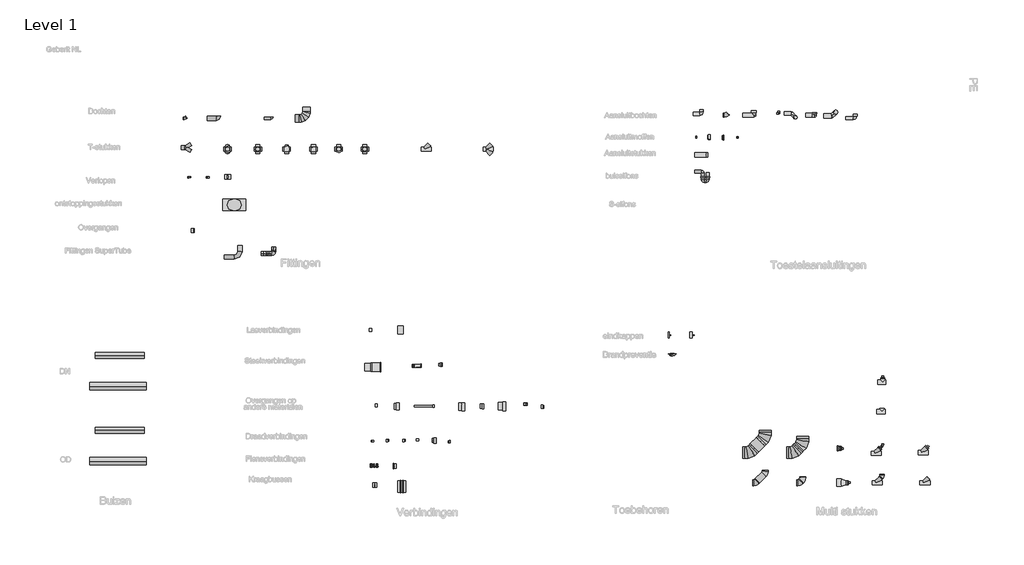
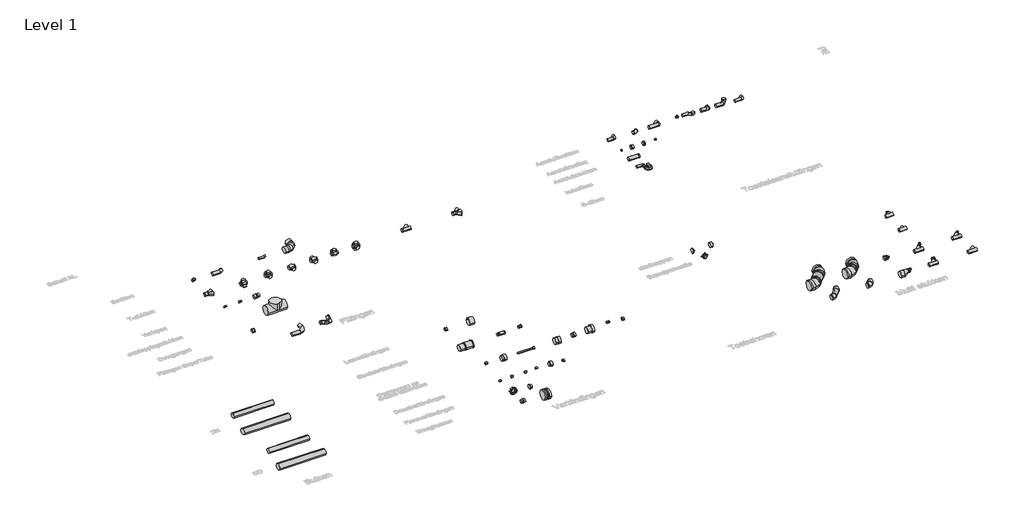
# One storey, part 1 of 9: 88 pipe fittings, 6 pipe segments, 1 covering.
"""IFC4 building model written with IfcOpenShell, lengths in millimetres."""

from ifc_helpers import new_model, si_unit, point, frame, frame_2d, origin, place, context, project, spatial, circle_curve, trimmed, segment, composite_curve, outline, extrude, transform, mapped, element, save
from components import covering_f3e6e1b0, pipe_fitting_01506ed9, pipe_fitting_891d161b, pipe_fitting_aa14bf3e, pipe_fitting_cdec6f6e, pipe_fitting_94343e28, pipe_fitting_200c67d1, pipe_fitting_8937aa88, pipe_fitting_72bd3ef1, pipe_fitting_7474d90c, pipe_fitting_4cfa4c72, pipe_fitting_c2f5c8ad, pipe_fitting_3d7ed814, pipe_fitting_5ecb3781, pipe_fitting_8499a61f, pipe_fitting_ef94fdf8, pipe_fitting_06a9d853, pipe_fitting_5e263041, pipe_fitting_2d73b07b, pipe_fitting_837e9a98, pipe_fitting_a494353a, pipe_fitting_ec2da396, pipe_fitting_92d443f0, pipe_fitting_509cdd89, pipe_fitting_5697ba1b, pipe_fitting_2152e1c3, pipe_fitting_bed2c911, pipe_fitting_a08efd00, pipe_fitting_3a0e395e, pipe_fitting_94b47f5e, pipe_fitting_18a78aad, pipe_fitting_8b9b12c6, pipe_fitting_c1c2389f, pipe_fitting_84bfb5ac, pipe_fitting_539533b1, pipe_fitting_511397ee, pipe_fitting_b586c07b, pipe_fitting_5c974b61, pipe_fitting_3ff8aea3, pipe_fitting_5e71ca5e, pipe_fitting_f7247931, pipe_fitting_40b46b3c, pipe_fitting_e77b350f, pipe_fitting_38d1e98c, pipe_fitting_d28d0940, pipe_fitting_21b6d9ae, pipe_fitting_029c0207, pipe_fitting_4753cb8a, pipe_fitting_93f2e5c1, pipe_fitting_f7c1df82, pipe_fitting_514cde16, pipe_fitting_fa588625, pipe_fitting_bb3acb3a, pipe_fitting_9f7682d1, pipe_fitting_7b2d2720, pipe_fitting_122abe25, pipe_fitting_f3f9f784, pipe_fitting_35322ad2, pipe_fitting_e7b06fe6, pipe_fitting_a508771a, pipe_fitting_67a79f44, pipe_fitting_d58c71f0, nested_2992b03f, nested_21fb20ed, nested_cf578549, nested_1662fd97, nested_d7a01211, nested_2d8ea072, nested_098f2a58, nested_b8c35c44, nested_941dfa96, nested_ecac7f44, nested_0e2d0414, nested_0cd4240f, nested_5c74db91, nested_bcde11aa, nested_b3afe5c9, nested_135c0b6a

model = new_model("IFC4")

# Units and contexts
model_context = context("Model", 3, world=origin())
ifc_project = project(units=[si_unit("LENGTHUNIT", "METRE", prefix="MILLI")], contexts=[model_context])

# Site, building, storey
site = spatial("IfcSite", under=ifc_project)
building = spatial("IfcBuilding", under=site)
storey = spatial("IfcBuildingStorey", under=building, Name="Level 1", Elevation=0.0)

# Covering
placement = place(None, origin())
covering_shape = covering_f3e6e1b0(model_context)
element("IfcCovering", 1, ObjectType="NLRS_52_SE_WPB_brandmanchet RS90 Plus EN_PRO_101862_geb : DN40-200 / d40-200 - OD", at=placement, inside=storey, context=model_context, shape_type="MappedRepresentation", body=[
    mapped(covering_shape, transform((13033.1934417, 15218.9413767, 99.896756), x_axis=(0.0, 0.03482583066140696, -0.9993933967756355), y_axis=(1.0, 0.0, 0.0), z_axis=(0.0, -0.9993933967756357, -0.034825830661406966))),
])

# Pipe fittings
pipe_fitting_shape = pipe_fitting_01506ed9(model_context)
element("IfcPipeFitting", 2, ObjectType="NLRS_52_PIF_UN_PE BackFlip bocht_geb : DN100 / ø110", at=placement, inside=storey, context=model_context, shape_type="MappedRepresentation", body=[
    mapped(pipe_fitting_shape, transform((2411.3752995, 17895.2036212, 0.0), x_axis=(1.0, 0.0, 0.0), y_axis=(0.0, 1.0, 0.0), z_axis=(0.0, 0.0, 1.0))),
])
pipe_fitting_2_shape = pipe_fitting_891d161b(model_context)
element("IfcPipeFitting", 3, ObjectType="NLRS_52_PIF_UN_PE bocht 90° met lang been en kleine radius_geb : DN90-100 / ø90-110", at=placement, inside=storey, context=model_context, shape_type="MappedRepresentation", body=[
    mapped(pipe_fitting_2_shape, transform((942.3752995, 21495.5424865, 0.0), x_axis=(1.0, 0.0, 0.0), y_axis=(0.0, 1.0, 0.0), z_axis=(0.0, 0.0, 1.0))),
])
pipe_fitting_3_shape = pipe_fitting_aa14bf3e(model_context)
element("IfcPipeFitting", 4, ObjectType="NLRS_52_PIF_UN_PE BottomTurn bocht_geb : DN100 / ø110", at=placement, inside=storey, context=model_context, shape_type="MappedRepresentation", body=[
    mapped(pipe_fitting_3_shape, transform((1511.3752995, 17795.2036212, 0.0), x_axis=(1.0, 0.0, 0.0), y_axis=(0.0, 1.0, 0.0), z_axis=(0.0, 0.0, 1.0))),
])
pipe_fitting_4_shape = pipe_fitting_cdec6f6e(model_context)
element("IfcPipeFitting", 5, ObjectType="NLRS_52_PIF_UN_PE broek T-stuk 2 x 30°_geb : DN40-100 Ø40-110", at=placement, inside=storey, context=model_context, shape_type="MappedRepresentation", body=[
    mapped(pipe_fitting_4_shape, transform((42.047866, 20720.9447432, 0.0), x_axis=(1.0, 0.0, 0.0), y_axis=(0.0, 1.0, 0.0), z_axis=(0.0, 0.0, 1.0))),
])
pipe_fitting_5_shape = pipe_fitting_94343e28(model_context)
element("IfcPipeFitting", 6, ObjectType="NLRS_52_PIF_UN_PE kogel T-stuk 88,5° drievoudig, aansluitingen 135° sprong_geb : DN60-125 / ø63-125", at=placement, inside=storey, context=model_context, shape_type="MappedRepresentation", body=[
    mapped(pipe_fitting_5_shape, transform((1179.5557018, 20673.2055651, 0.0), x_axis=(1.0, 0.0, 0.0), y_axis=(0.0, 1.0, 0.0), z_axis=(0.0, 0.0, 1.0))),
])
pipe_fitting_6_shape = pipe_fitting_200c67d1(model_context)
element("IfcPipeFitting", 7, ObjectType="NLRS_52_PIF_UN_PE kogel T-stuk 88,5° drievoudig, aansluitingen 90° sprong_geb : DN60-150 / ø63-160", at=placement, inside=storey, context=model_context, shape_type="MappedRepresentation", body=[
    mapped(pipe_fitting_6_shape, transform((1989.8352561, 20673.2055651, 0.0), x_axis=(1.0, 0.0, 0.0), y_axis=(0.0, 1.0, 0.0), z_axis=(0.0, 0.0, 1.0))),
])
pipe_fitting_7_shape = pipe_fitting_8937aa88(model_context)
element("IfcPipeFitting", 8, ObjectType="NLRS_52_PIF_UN_PE kogel T-stuk 88,5° dubbel, aansluitingen 135° sprong_geb : DN60-150 / ø63-160", at=placement, inside=storey, context=model_context, shape_type="MappedRepresentation", body=[
    mapped(pipe_fitting_7_shape, transform((2753.3679131, 20673.2055651, 0.0), x_axis=(1.0, 0.0, 0.0), y_axis=(0.0, 1.0, 0.0), z_axis=(0.0, 0.0, 1.0))),
])
pipe_fitting_8_shape = pipe_fitting_72bd3ef1(model_context)
element("IfcPipeFitting", 9, ObjectType="NLRS_52_PIF_UN_PE kogel T-stuk 88,5° dubbel, aansluitingen 180° sprong_geb : DN60-150 / ø63-160", at=placement, inside=storey, context=model_context, shape_type="MappedRepresentation", body=[
    mapped(pipe_fitting_8_shape, transform((3470.1536726, 20673.2055651, 0.0), x_axis=(1.0, 0.0, 0.0), y_axis=(0.0, 1.0, 0.0), z_axis=(0.0, 0.0, 1.0))),
])
pipe_fitting_9_shape = pipe_fitting_7474d90c(model_context)
element("IfcPipeFitting", 10, ObjectType="NLRS_52_PIF_UN_PE kogel T-stuk 88,5° dubbel, aansluitingen 90° sprong_geb : DN60-150 / ø63-160", at=placement, inside=storey, context=model_context, shape_type="MappedRepresentation", body=[
    mapped(pipe_fitting_9_shape, transform((4140.1925348, 20673.2055651, 0.0), x_axis=(1.0, 0.0, 0.0), y_axis=(0.0, 1.0, 0.0), z_axis=(0.0, 0.0, 1.0))),
])
pipe_fitting_10_shape = pipe_fitting_4cfa4c72(model_context)
element("IfcPipeFitting", 11, ObjectType="NLRS_52_PIF_UN_PE kogel T-stuk 88,5° viervoudig, aansluitingen 90° sprong_geb : DN60-150 / ø63-160", at=placement, inside=storey, context=model_context, shape_type="MappedRepresentation", body=[
    mapped(pipe_fitting_10_shape, transform((4841.3959953, 20673.2055651, 0.0), x_axis=(1.0, 0.0, 0.0), y_axis=(0.0, 1.0, 0.0), z_axis=(0.0, 0.0, 1.0))),
])
pipe_fitting_11_shape = pipe_fitting_c2f5c8ad(model_context)
element("IfcPipeFitting", 12, ObjectType="NLRS_52_PIF_UN_PE tweevoudig T-stuk 45°_geb : DN40-100 / ø40-110", at=placement, inside=storey, context=model_context, shape_type="MappedRepresentation", body=[
    mapped(pipe_fitting_11_shape, transform((8082.5142125, 20673.2055651, 0.0), x_axis=(1.0, 0.0, 0.0), y_axis=(0.0, 1.0, 0.0), z_axis=(0.0, 0.0, 1.0))),
])
pipe_fitting_12_shape = pipe_fitting_3d7ed814(model_context)
element("IfcPipeFitting", 13, ObjectType="NLRS_52_PIF_UN_PE ontstoppingsstuk 90° met ovale service-opening_geb : DN100-300 / ø110-315", at=placement, inside=storey, context=model_context, shape_type="MappedRepresentation", body=[
    mapped(pipe_fitting_12_shape, transform((1359.7334912, 19189.3791747, 0.0), x_axis=(1.0, 0.0, 0.0), y_axis=(0.0, 1.0, 0.0), z_axis=(0.0, 0.0, 1.0))),
])
pipe_fitting_13_shape = pipe_fitting_5ecb3781(model_context)
element("IfcPipeFitting", 14, ObjectType="NLRS_52_PIF_UN_PE overgangsmof_geb : DN90-100 / ø90-110", at=placement, inside=storey, context=model_context, shape_type="MappedRepresentation", body=[
    mapped(pipe_fitting_13_shape, transform((248.7155638, 18508.4327031, 0.0), x_axis=(1.0, 0.0, 0.0), y_axis=(0.0, 1.0, 0.0), z_axis=(0.0, 0.0, 1.0))),
])
pipe_fitting_14_shape = pipe_fitting_8499a61f(model_context)
element("IfcPipeFitting", 15, ObjectType="NLRS_52_PIF_UN_PE elektrolasmof_geb : DN40-150 / ø40-160", at=placement, inside=storey, context=model_context, shape_type="MappedRepresentation", body=[
    mapped(pipe_fitting_14_shape, transform((4990.9103576, 15854.1209089, 0.0), x_axis=(1.0, 0.0, 0.0), y_axis=(0.0, 1.0, 0.0), z_axis=(0.0, 0.0, 1.0))),
])
pipe_fitting_15_shape = pipe_fitting_ef94fdf8(model_context)
element("IfcPipeFitting", 16, ObjectType="NLRS_52_PIF_UN_PE thermomof_geb : DN200-300 / ø200-315", at=placement, inside=storey, context=model_context, shape_type="MappedRepresentation", body=[
    mapped(pipe_fitting_15_shape, transform((5785.6076128, 15854.1209089, 0.0), x_axis=(1.0, 0.0, 0.0), y_axis=(0.0, 1.0, 0.0), z_axis=(0.0, 0.0, 1.0))),
])
pipe_fitting_16_shape = pipe_fitting_06a9d853(model_context)
element("IfcPipeFitting", 17, ObjectType="NLRS_52_PIF_UN_PE steekmof met lippendichting_geb : DN40-150 / ø40-160", at=placement, inside=storey, context=model_context, shape_type="MappedRepresentation", body=[
    mapped(pipe_fitting_16_shape, transform((6856.0340088, 14927.5005981, 0.0), x_axis=(1.0, 0.0, 0.0), y_axis=(0.0, 1.0, 0.0), z_axis=(0.0, 0.0, 1.0))),
])
pipe_fitting_17_shape = pipe_fitting_5e263041(model_context)
element("IfcPipeFitting", 18, ObjectType="NLRS_52_PIF_UN_PE overgang_geb : DN100-150-148 / ø110-160-148", at=placement, inside=storey, context=model_context, shape_type="MappedRepresentation", body=[
    mapped(pipe_fitting_17_shape, transform((5669.5609406, 13820.1875572, 0.0), x_axis=(1.0, 0.0, 0.0), y_axis=(0.0, 1.0, 0.0), z_axis=(0.0, 0.0, 1.0))),
])
pipe_fitting_18_shape = pipe_fitting_2d73b07b(model_context)
element("IfcPipeFitting", 19, ObjectType="NLRS_52_PIF_UN_PE overgang met krimpmof_geb : DN48-300 / ø48-315", at=placement, inside=storey, context=model_context, shape_type="MappedRepresentation", body=[
    mapped(pipe_fitting_18_shape, transform((6422.1859881, 13820.1875572, 0.0), x_axis=(1.0, 0.0, 0.0), y_axis=(0.0, 1.0, 0.0), z_axis=(0.0, 0.0, 1.0))),
])
pipe_fitting_19_shape = pipe_fitting_837e9a98(model_context)
element("IfcPipeFitting", 20, ObjectType="NLRS_52_PIF_UN_PE overgang op gietijzer_geb : DN200-300-326 / ø200-315-326", at=placement, inside=storey, context=model_context, shape_type="MappedRepresentation", body=[
    mapped(pipe_fitting_19_shape, transform((7425.6860515, 13802.2679132, 0.0), x_axis=(1.0, 0.0, 0.0), y_axis=(0.0, 1.0, 0.0), z_axis=(0.0, 0.0, 1.0))),
])
pipe_fitting_20_shape = pipe_fitting_a494353a(model_context)
element("IfcPipeFitting", 21, ObjectType="NLRS_52_PIF_UN_PE overgang op gietijzer, met steunring_geb : DN125-135 / ø125-135", at=placement, inside=storey, context=model_context, shape_type="MappedRepresentation", body=[
    mapped(pipe_fitting_20_shape, transform((7963.2753712, 13820.1875572, 0.0), x_axis=(1.0, 0.0, 0.0), y_axis=(0.0, 1.0, 0.0), z_axis=(0.0, 0.0, 1.0))),
])
pipe_fitting_21_shape = pipe_fitting_ec2da396(model_context)
element("IfcPipeFitting", 22, ObjectType="NLRS_52_PIF_UN_PE overgang op lood_geb : DN50-54 / ø50-54", at=placement, inside=storey, context=model_context, shape_type="MappedRepresentation", body=[
    mapped(pipe_fitting_21_shape, transform((9128.0522305, 13873.9464891, 0.0), x_axis=(1.0, 0.0, 0.0), y_axis=(0.0, 1.0, 0.0), z_axis=(0.0, 0.0, 1.0))),
])
pipe_fitting_22_shape = pipe_fitting_92d443f0(model_context)
element("IfcPipeFitting", 23, ObjectType="NLRS_52_PIF_UN_PE overgangsmanchet op gietijzer, met steunring_geb : DN50-125 / ø50-125", at=placement, inside=storey, context=model_context, shape_type="MappedRepresentation", body=[
    mapped(pipe_fitting_22_shape, transform((9558.1236862, 13802.2679132, 0.0), x_axis=(1.0, 0.0, 0.0), y_axis=(0.0, 1.0, 0.0), z_axis=(0.0, 0.0, 1.0))),
])
pipe_fitting_23_shape = pipe_fitting_509cdd89(model_context)
element("IfcPipeFitting", 24, ObjectType="NLRS_52_PIF_UN_PE overgang met binnendraad_geb : DN40-70-Rp2½\" / ø40-75-Rp2½\"", at=placement, inside=storey, context=model_context, shape_type="MappedRepresentation", body=[
    mapped(pipe_fitting_23_shape, transform((5042.3734009, 12888.3660697, 0.0), x_axis=(1.0, 0.0, 0.0), y_axis=(0.0, 1.0, 0.0), z_axis=(0.0, 0.0, 1.0))),
])
pipe_fitting_24_shape = pipe_fitting_5697ba1b(model_context)
element("IfcPipeFitting", 25, ObjectType="NLRS_52_PIF_UN_PE overgang met binnendraad en klemkoppeling_geb : DN56-Rp2\" / ø56-Rp2\"", at=placement, inside=storey, context=model_context, shape_type="MappedRepresentation", body=[
    mapped(pipe_fitting_24_shape, transform((5454.5252127, 12906.2857137, 0.0), x_axis=(1.0, 0.0, 0.0), y_axis=(0.0, 1.0, 0.0), z_axis=(0.0, 0.0, 1.0))),
])
pipe_fitting_25_shape = pipe_fitting_2152e1c3(model_context)
element("IfcPipeFitting", 26, ObjectType="NLRS_52_PIF_UN_PE overgang met buitendraad en klemkoppeling_geb : DN50-56-R2\" / ø50-56-R2\"", at=placement, inside=storey, context=model_context, shape_type="MappedRepresentation", body=[
    mapped(pipe_fitting_25_shape, transform((5884.5966684, 12906.2857137, 0.0), x_axis=(1.0, 0.0, 0.0), y_axis=(0.0, 1.0, 0.0), z_axis=(0.0, 0.0, 1.0))),
])
pipe_fitting_26_shape = pipe_fitting_bed2c911(model_context)
element("IfcPipeFitting", 27, ObjectType="NLRS_52_PIF_UN_PE overgangsstuk met buitendraad_geb : DN50-70-R2½\" / ø50-75-R2½\"", at=placement, inside=storey, context=model_context, shape_type="MappedRepresentation", body=[
    mapped(pipe_fitting_26_shape, transform((6242.9895482, 12924.2053577, 0.0), x_axis=(1.0, 0.0, 0.0), y_axis=(0.0, 1.0, 0.0), z_axis=(0.0, 0.0, 1.0))),
])
pipe_fitting_27_shape = pipe_fitting_a08efd00(model_context)
element("IfcPipeFitting", 28, ObjectType="NLRS_52_PIF_UN_PE schroefdraadstuk met afsluitkap_geb : DN30-100 / ø32-110", at=placement, inside=storey, context=model_context, shape_type="MappedRepresentation", body=[
    mapped(pipe_fitting_27_shape, transform((6673.0610039, 12906.2857137, 0.0), x_axis=(1.0, 0.0, 0.0), y_axis=(0.0, 1.0, 0.0), z_axis=(0.0, 0.0, 1.0))),
])
pipe_fitting_28_shape = pipe_fitting_3a0e395e(model_context)
element("IfcPipeFitting", 29, ObjectType="NLRS_52_PIF_UN_PE schroefdraadstuk met klemkoppeling_geb : DN30-100 / ø32-110", at=placement, inside=storey, context=model_context, shape_type="MappedRepresentation", body=[
    mapped(pipe_fitting_28_shape, transform((7085.2128157, 12870.4464257, 0.0), x_axis=(1.0, 0.0, 0.0), y_axis=(0.0, 1.0, 0.0), z_axis=(0.0, 0.0, 1.0))),
])
pipe_fitting_29_shape = pipe_fitting_94b47f5e(model_context)
element("IfcPipeFitting", 30, ObjectType="NLRS_52_PIF_UN_PE set flens_geb : DN50-300 / ø50-315", at=placement, inside=storey, context=model_context, shape_type="MappedRepresentation", body=[
    mapped(pipe_fitting_29_shape, transform((5087.1917562, 12218.7765585, 40.5704963), x_axis=(1.0, 0.0, 0.0), y_axis=(0.0, 0.058908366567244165, 0.9982633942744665), z_axis=(0.0, -0.9982633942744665, 0.058908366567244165))),
])
pipe_fitting_30_shape = pipe_fitting_18a78aad(model_context)
element("IfcPipeFitting", 31, ObjectType="NLRS_52_PIF_UN_PE voorlaskraag_geb : DN50-300 / ø50-315", at=placement, inside=storey, context=model_context, shape_type="MappedRepresentation", body=[
    mapped(pipe_fitting_30_shape, transform((5601.0538751, 12222.5407082, 0.0), x_axis=(1.0, 0.0, 0.0), y_axis=(0.0, 1.0, 0.0), z_axis=(0.0, 0.0, 1.0))),
])
pipe_fitting_31_shape = pipe_fitting_8b9b12c6(model_context)
element("IfcPipeFitting", 32, ObjectType="NLRS_52_PIF_UN_PE kraagbus_geb : DN30-100 / ø32-110", at=placement, inside=storey, context=model_context, shape_type="MappedRepresentation", body=[
    mapped(pipe_fitting_31_shape, transform((5102.1369897, 11714.7145927, 0.0), x_axis=(1.0, 0.0, 0.0), y_axis=(0.0, 1.0, 0.0), z_axis=(0.0, 0.0, 1.0))),
])
pipe_fitting_32_shape = pipe_fitting_c1c2389f(model_context)
element("IfcPipeFitting", 33, ObjectType="NLRS_52_PIF_UN_aansluitbocht 90° voor wand-wc_geb : DN90-100 / ø90-110", at=placement, inside=storey, context=model_context, shape_type="MappedRepresentation", body=[
    mapped(pipe_fitting_32_shape, transform((13813.4360401, 21615.4855156, 0.0), x_axis=(1.0, 0.0, 0.0), y_axis=(0.0, 1.0, 0.0), z_axis=(0.0, 0.0, 1.0))),
])
pipe_fitting_33_shape = pipe_fitting_84bfb5ac(model_context)
element("IfcPipeFitting", 34, ObjectType="NLRS_52_PIF_UN_PE aansluitbocht 45° met aansluitsteekmof, voor wand-wc_geb : DN90-100 / ø90-110", at=placement, inside=storey, context=model_context, shape_type="MappedRepresentation", body=[
    mapped(pipe_fitting_33_shape, transform((14471.6089961, 21586.2232082, 0.0), x_axis=(1.0, 0.0, 0.0), y_axis=(0.0, 1.0, 0.0), z_axis=(0.0, 0.0, 1.0))),
])
pipe_fitting_34_shape = pipe_fitting_539533b1(model_context)
element("IfcPipeFitting", 35, ObjectType="NLRS_52_PIF_UN_PE aansluitbocht 88,5° voor staande wc_geb : DN90-100 / ø90-110", at=placement, inside=storey, context=model_context, shape_type="MappedRepresentation", body=[
    mapped(pipe_fitting_34_shape, transform((15206.2696006, 21586.2232082, 0.0), x_axis=(1.0, 0.0, 0.0), y_axis=(0.0, 1.0, 0.0), z_axis=(0.0, 0.0, 1.0))),
])
pipe_fitting_35_shape = pipe_fitting_511397ee(model_context)
element("IfcPipeFitting", 36, ObjectType="NLRS_52_PIF_UN_PE aansluitbocht 90° voor manchet_geb : DN40-56-58 / ø40-56-58", at=placement, inside=storey, context=model_context, shape_type="MappedRepresentation", body=[
    mapped(pipe_fitting_35_shape, transform((15869.8340175, 21633.6206665, 0.0), x_axis=(1.0, 0.0, 0.0), y_axis=(0.0, 1.0, 0.0), z_axis=(0.0, 0.0, 1.0))),
])
pipe_fitting_36_shape = pipe_fitting_b586c07b(model_context)
element("IfcPipeFitting", 37, ObjectType="NLRS_52_PIF_UN_PE aansluitbocht 90° voor wand-wc, links gebogen, met korte voorsprong_geb : DN90-100 / ø90-110", at=placement, inside=storey, context=model_context, shape_type="MappedRepresentation", body=[
    mapped(pipe_fitting_36_shape, transform((16308.1457556, 21624.9530386, 0.0), x_axis=(1.0, 0.0, 0.0), y_axis=(0.0, 1.0, 0.0), z_axis=(0.0, 0.0, 1.0))),
])
pipe_fitting_37_shape = pipe_fitting_5c974b61(model_context)
element("IfcPipeFitting", 38, ObjectType="NLRS_52_PIF_UN_PE aansluitbocht 90° voor wand-wc, met korte voorsprong_geb : DN90-100 / ø90-110", at=placement, inside=storey, context=model_context, shape_type="MappedRepresentation", body=[
    mapped(pipe_fitting_37_shape, transform((16819.4580916, 21578.470099, 0.0), x_axis=(1.0, 0.0, 0.0), y_axis=(0.0, 1.0, 0.0), z_axis=(0.0, 0.0, 1.0))),
])
pipe_fitting_38_shape = pipe_fitting_3ff8aea3(model_context)
element("IfcPipeFitting", 39, ObjectType="NLRS_52_PIF_UN_PE aansluitbocht 90° voor wand-wc, rechts gebogen, met korte voorsprong_geb : DN90-100 / ø90-110", at=placement, inside=storey, context=model_context, shape_type="MappedRepresentation", body=[
    mapped(pipe_fitting_38_shape, transform((17385.0005238, 21562.9757857, 0.0), x_axis=(1.0, 0.0, 0.0), y_axis=(0.0, 1.0, 0.0), z_axis=(0.0, 0.0, 1.0))),
])
pipe_fitting_39_shape = pipe_fitting_5e71ca5e(model_context)
element("IfcPipeFitting", 40, ObjectType="NLRS_52_PIF_UN_PE aansluitmof_geb : DN40-60 / ø40-63", at=placement, inside=storey, context=model_context, shape_type="MappedRepresentation", body=[
    mapped(pipe_fitting_39_shape, transform((13663.333794, 20996.1648535, 0.0), x_axis=(1.0, 0.0, 0.0), y_axis=(0.0, 1.0, 0.0), z_axis=(0.0, 0.0, 1.0))),
])
pipe_fitting_40_shape = pipe_fitting_f7247931(model_context)
element("IfcPipeFitting", 41, ObjectType="NLRS_52_PIF_UN_PE aansluitmof voor staande wc_geb : DN90-100 / ø90-110", at=placement, inside=storey, context=model_context, shape_type="MappedRepresentation", body=[
    mapped(pipe_fitting_40_shape, transform((13992.4523745, 20995.0398316, 0.0), x_axis=(1.0, 0.0, 0.0), y_axis=(0.0, 1.0, 0.0), z_axis=(0.0, 0.0, 1.0))),
])
pipe_fitting_41_shape = pipe_fitting_40b46b3c(model_context)
element("IfcPipeFitting", 42, ObjectType="NLRS_52_PIF_UN_PE aansluitsteekmof met lipafdichting, voor wand-wc_geb : DN90-100 / ø90-110", at=placement, inside=storey, context=model_context, shape_type="MappedRepresentation", body=[
    mapped(pipe_fitting_41_shape, transform((14362.9685599, 20981.5665158, 0.0), x_axis=(1.0, 0.0, 0.0), y_axis=(0.0, 1.0, 0.0), z_axis=(0.0, 0.0, 1.0))),
])
pipe_fitting_42_shape = pipe_fitting_e77b350f(model_context)
element("IfcPipeFitting", 43, ObjectType="NLRS_52_PIF_UN_PE aansluitsteekmof met lippendichting_geb : DN30-32 / ø32-32", at=placement, inside=storey, context=model_context, shape_type="MappedRepresentation", body=[
    mapped(pipe_fitting_42_shape, transform((14753.6947192, 20988.3031737, 0.0), x_axis=(1.0, 0.0, 0.0), y_axis=(0.0, 1.0, 0.0), z_axis=(0.0, 0.0, 1.0))),
])
pipe_fitting_43_shape = pipe_fitting_38d1e98c(model_context)
element("IfcPipeFitting", 44, ObjectType="NLRS_52_PIF_UN_PE aansluitstuk met steekmof, voor wand-wc_geb : DN90-100 / ø90-110", at=placement, inside=storey, context=model_context, shape_type="MappedRepresentation", body=[
    mapped(pipe_fitting_43_shape, transform((13783.615979, 20523.4737774, 0.0), x_axis=(1.0, 0.0, 0.0), y_axis=(0.0, 1.0, 0.0), z_axis=(0.0, 0.0, 1.0))),
])
pipe_fitting_44_shape = pipe_fitting_d28d0940(model_context)
element("IfcPipeFitting", 45, ObjectType="NLRS_52_PIF_UN_PE buissifon_geb : DN60-100 / ø63-110", at=placement, inside=storey, context=model_context, shape_type="MappedRepresentation", body=[
    mapped(pipe_fitting_44_shape, transform((13978.9790586, 20078.8543548, 0.0), x_axis=(1.0, 0.0, 0.0), y_axis=(0.0, 1.0, 0.0), z_axis=(0.0, 0.0, 1.0))),
])
pipe_fitting_45_shape = pipe_fitting_21b6d9ae(model_context)
element("IfcPipeFitting", 46, ObjectType="NLRS_52_PIF_UN_PE dubbele kraagbus_geb : DN200-300 / ø200-315", at=placement, inside=storey, context=model_context, shape_type="MappedRepresentation", body=[
    mapped(pipe_fitting_45_shape, transform((5822.6491079, 11674.8918857, 0.0), x_axis=(1.0, 0.0, 0.0), y_axis=(0.0, 1.0, 0.0), z_axis=(0.0, 0.0, 1.0))),
])
pipe_fitting_46_shape = pipe_fitting_029c0207(model_context)
element("IfcPipeFitting", 47, ObjectType="NLRS_52_PIF_UN_PE eindkap_geb : DN30-200 / ø32-200", at=placement, inside=storey, context=model_context, shape_type="MappedRepresentation", body=[
    mapped(pipe_fitting_46_shape, transform((12928.0639185, 15715.1571669, 0.0), x_axis=(1.0, 0.0, 0.0), y_axis=(0.0, 1.0, 0.0), z_axis=(0.0, 0.0, 1.0))),
])
pipe_fitting_47_shape = pipe_fitting_4753cb8a(model_context)
element("IfcPipeFitting", 48, ObjectType="NLRS_52_PIF_UN_PE eindkap verlengd_geb : DN50-150 / ø50-160", at=placement, inside=storey, context=model_context, shape_type="MappedRepresentation", body=[
    mapped(pipe_fitting_47_shape, transform((13505.0764549, 15715.1571669, 0.0), x_axis=(1.0, 0.0, 0.0), y_axis=(0.0, 1.0, 0.0), z_axis=(0.0, 0.0, 1.0))),
])
pipe_fitting_48_shape = pipe_fitting_93f2e5c1(model_context)
element("IfcPipeFitting", 49, ObjectType="NLRS_52_PIF_UN_PE multi T-stuk_geb : Standleiding - Var. DN/OD", at=placement, inside=storey, context=model_context, shape_type="MappedRepresentation", body=[
    mapped(pipe_fitting_48_shape, transform((18636.6291281, 14460.0063401, 0.0), x_axis=(1.0, 0.0, 0.0), y_axis=(0.0, 1.0, 0.0), z_axis=(0.0, 0.0, 1.0))),
])
pipe_fitting_49_shape = pipe_fitting_f7c1df82(model_context)
element("IfcPipeFitting", 50, ObjectType="NLRS_52_PIF_UN_overgangsklemkoppeling_geb : d48-210 / ø48-210", at=placement, inside=storey, context=model_context, shape_type="MappedRepresentation", body=[
    mapped(pipe_fitting_49_shape, transform((5139.06108, 13837.359056, 0.0), x_axis=(1.0, 0.0, 0.0), y_axis=(0.0, 1.0, 0.0), z_axis=(0.0, 0.0, 1.0))),
])
pipe_fitting_50_shape = pipe_fitting_514cde16(model_context)
element("IfcPipeFitting", 51, ObjectType="NLRS_52_PIF_UN_PE overgang op gres_geb : DN100-300-352 / ø110-315-352", at=placement, inside=storey, context=model_context, shape_type="MappedRepresentation", body=[
    mapped(pipe_fitting_50_shape, transform((8518.7843348, 13820.1875572, 0.0), x_axis=(1.0, 0.0, 0.0), y_axis=(0.0, 1.0, 0.0), z_axis=(0.0, 0.0, 1.0))),
])
pipe_fitting_51_shape = pipe_fitting_fa588625(model_context)
element("IfcPipeFitting", 52, ObjectType="NLRS_52_PIF_UN_PE aansluitbocht 90° voor wc, uittrekbaar_geb : DN90-100 / ø90-110", at=placement, inside=storey, context=model_context, shape_type="MappedRepresentation", body=[
    mapped(pipe_fitting_51_shape, transform((17905.7348548, 21503.1968854, 0.0), x_axis=(1.0, 0.0, 0.0), y_axis=(0.0, 1.0, 0.0), z_axis=(0.0, 0.0, 1.0))),
])
pipe_fitting_52_shape = pipe_fitting_bb3acb3a(model_context)
element("IfcPipeFitting", 53, ObjectType="NLRS_52_PIF_UN_PE multi T-stuk_geb : Liggend - Var. DN/OD", at=placement, inside=storey, context=model_context, shape_type="MappedRepresentation", body=[
    mapped(pipe_fitting_52_shape, transform((18453.5040319, 11776.1648895, 0.0), x_axis=(1.0, 0.0, 0.0), y_axis=(0.0, 1.0, 0.0), z_axis=(0.0, 0.0, 1.0))),
])
element("IfcPipeFitting", 54, ObjectType="NLRS_52_PIF_UN_PE multi T-stuk_geb : Liggend - Var. DN/OD", at=placement, inside=storey, context=model_context, shape_type="MappedRepresentation", body=[
    mapped(pipe_fitting_52_shape, transform((19723.2238595, 11776.1648895, 0.0), x_axis=(1.0, 0.0, 0.0), y_axis=(0.0, 1.0, 0.0), z_axis=(0.0, 0.0, 1.0))),
])
element("IfcPipeFitting", 55, ObjectType="NLRS_52_PIF_UN_PE multi T-stuk_geb : Liggend - Var. DN/OD", at=placement, inside=storey, context=model_context, shape_type="MappedRepresentation", body=[
    mapped(pipe_fitting_52_shape, transform((18426.6184141, 12560.0063401, 0.0), x_axis=(1.0, 0.0, 0.0), y_axis=(0.0, 1.0, 0.0), z_axis=(0.0, 0.0, 1.0))),
])
element("IfcPipeFitting", 56, ObjectType="NLRS_52_PIF_UN_PE multi T-stuk_geb : Liggend - Var. DN/OD", at=placement, inside=storey, context=model_context, shape_type="MappedRepresentation", body=[
    mapped(pipe_fitting_52_shape, transform((19675.2434363, 12581.651482, 0.0), x_axis=(1.0, 0.0, 0.0), y_axis=(0.0, 1.0, 0.0), z_axis=(0.0, 0.0, 1.0))),
])
element("IfcPipeFitting", 57, ObjectType="NLRS_52_PIF_UN_PE multi T-stuk_geb : Standleiding - Var. DN/OD", at=placement, inside=storey, context=model_context, shape_type="MappedRepresentation", body=[
    mapped(pipe_fitting_48_shape, transform((18619.6741255, 13676.1648895, 0.0), x_axis=(1.0, 0.0, 0.0), y_axis=(0.0, 1.0, 0.0), z_axis=(0.0, 0.0, 1.0))),
])
pipe_fitting_53_shape = pipe_fitting_9f7682d1(model_context)
element("IfcPipeFitting", 58, ObjectType="NLRS_52_PIF_UN_PE bocht met lang been_PRO_101544_geb : DN30-150 / ø32-160 - OD", at=placement, inside=storey, context=model_context, shape_type="MappedRepresentation", body=[
    mapped(pipe_fitting_53_shape, transform((2365.0014248, 21495.5424865, 0.0), x_axis=(1.0, 0.0, 0.0), y_axis=(0.0, 1.0, 0.0), z_axis=(0.0, 0.0, 1.0))),
])
pipe_fitting_54_shape = pipe_fitting_7b2d2720(model_context)
element("IfcPipeFitting", 59, ObjectType="NLRS_52_PIF_UN_PE segmentbocht_PRO_101555_geb : DN200-300 / ø200-315 - OD", at=placement, inside=storey, context=model_context, shape_type="MappedRepresentation", body=[
    mapped(pipe_fitting_54_shape, transform((3285.0014248, 21495.5424865, 0.0), x_axis=(1.0, 0.0, 0.0), y_axis=(0.0, 1.0, 0.0), z_axis=(0.0, 0.0, 1.0))),
])
pipe_fitting_55_shape = pipe_fitting_122abe25(model_context)
element("IfcPipeFitting", 60, ObjectType="NLRS_52_PIF_UN_PE verloop centrisch, kort_PRO_101573_geb : DN40-150 / ø40-160 - OD", at=placement, inside=storey, context=model_context, shape_type="MappedRepresentation", body=[
    mapped(pipe_fitting_55_shape, transform((157.7673299, 19929.4892595, 0.0), x_axis=(1.0, 0.0, 0.0), y_axis=(0.0, 1.0, 0.0), z_axis=(0.0, 0.0, 1.0))),
])
pipe_fitting_56_shape = pipe_fitting_f3f9f784(model_context)
element("IfcPipeFitting", 61, ObjectType="NLRS_52_PIF_UN_PE expansiemof_PRO_101616_geb : DN200-300 / ø200-315 - OD", at=placement, inside=storey, context=model_context, shape_type="MappedRepresentation", body=[
    mapped(pipe_fitting_56_shape, transform((4993.38791, 14861.2830619, 0.0), x_axis=(1.0, 0.0, 0.0), y_axis=(0.0, 1.0, 0.0), z_axis=(0.0, 0.0, 1.0))),
])
pipe_fitting_57_shape = pipe_fitting_35322ad2(model_context)
element("IfcPipeFitting", 62, ObjectType="NLRS_52_PIF_UN_PE verloop excentrisch, kort_PRO_101571_geb : DN40-150 / ø40-160 - OD", at=placement, inside=storey, context=model_context, shape_type="MappedRepresentation", body=[
    mapped(pipe_fitting_57_shape, transform((645.1137497, 19925.5615863, 0.0), x_axis=(1.0, 0.0, 0.0), y_axis=(0.0, 1.0, 0.0), z_axis=(0.0, 0.0, 1.0))),
])
pipe_fitting_58_shape = pipe_fitting_e7b06fe6(model_context)
element("IfcPipeFitting", 63, ObjectType="NLRS_52_PIF_UN_PE verloop excentrisch, lang_PRO_101572_geb : DN100-300 / ø110-315 - OD", at=placement, inside=storey, context=model_context, shape_type="MappedRepresentation", body=[
    mapped(pipe_fitting_58_shape, transform((1183.204975, 19937.3446058, 0.0), x_axis=(1.0, 0.0, 0.0), y_axis=(0.0, 1.0, 0.0), z_axis=(0.0, 0.0, 1.0))),
])
pipe_fitting_59_shape = pipe_fitting_a508771a(model_context)
element("IfcPipeFitting", 64, ObjectType="NLRS_52_PIF_UN_PE bocht_PRO_101543_geb : DN40-150 / ø40-160 - OD", at=placement, inside=storey, context=model_context, shape_type="MappedRepresentation", body=[
    mapped(pipe_fitting_59_shape, transform((45.0014248, 21495.5424865, 0.0), x_axis=(1.0, 0.0, 0.0), y_axis=(0.0, 1.0, 0.0), z_axis=(0.0, 0.0, 1.0))),
])
pipe_fitting_60_shape = pipe_fitting_67a79f44(model_context)
element("IfcPipeFitting", 65, ObjectType="NLRS_52_PIF_UN_PE expansiemof met dubbele rand_PRO_103905_geb : DN30-150 / ø32-160 - OD", at=placement, inside=storey, context=model_context, shape_type="MappedRepresentation", body=[
    mapped(pipe_fitting_60_shape, transform((6224.3939272, 14897.6360243, 0.0), x_axis=(1.0, 0.0, 0.0), y_axis=(0.0, 1.0, 0.0), z_axis=(0.0, 0.0, 1.0))),
])
pipe_fitting_61_shape = pipe_fitting_d58c71f0(model_context)
element("IfcPipeFitting", 66, ObjectType="NLRS_52_PFI_UN_PE T-stuk 45°_PRO_101557_geb : DN40-300 / ø40-315 - OD", at=placement, inside=storey, context=model_context, shape_type="MappedRepresentation", body=[
    mapped(pipe_fitting_61_shape, transform((6431.3752995, 20675.2036212, 0.0), x_axis=(1.0, 0.0, 0.0), y_axis=(0.0, 1.0, 0.0), z_axis=(0.0, 0.0, 1.0))),
])
nested_shape = nested_2992b03f(model_context)
element("IfcPipeFitting", 67, ObjectType="NLRS_52_PIF_UN_PE T-stuk 88,5°_SH_geb : (nested)", at=placement, inside=storey, context=model_context, shape_type="MappedRepresentation", body=[
    mapped(nested_shape, transform((18619.6741255, 13676.1648895, 0.0), x_axis=(1.0, 0.0, 0.0), y_axis=(0.0, 1.0, 0.0), z_axis=(0.0, 0.0, 1.0))),
])
element("IfcPipeFitting", 68, ObjectType="NLRS_52_PIF_UN_PE T-stuk 88,5°_SH_geb : (nested)", at=placement, inside=storey, context=model_context, shape_type="MappedRepresentation", body=[
    mapped(nested_shape, transform((18636.6291281, 14460.0063401, 0.0), x_axis=(1.0, 0.0, 0.0), y_axis=(0.0, 1.0, 0.0), z_axis=(0.0, 0.0, 1.0))),
])
nested_2_shape = nested_21fb20ed(model_context)
element("IfcPipeFitting", 69, ObjectType="NLRS_52_PIF_UN_PE T-stuk 45°_SH_geb : (nested)", at=placement, inside=storey, context=model_context, shape_type="MappedRepresentation", body=[
    mapped(nested_2_shape, transform((18453.5040319, 11776.1648895, 0.0), x_axis=(1.0, 0.0, 0.0), y_axis=(0.0, 1.0, 0.0), z_axis=(0.0, 0.0, 1.0))),
])
element("IfcPipeFitting", 70, ObjectType="NLRS_52_PIF_UN_PE T-stuk 45°_SH_geb : (nested)", at=placement, inside=storey, context=model_context, shape_type="MappedRepresentation", body=[
    mapped(nested_2_shape, transform((19723.2238595, 11776.1648895, 0.0), x_axis=(1.0, 0.0, 0.0), y_axis=(0.0, 1.0, 0.0), z_axis=(0.0, 0.0, 1.0))),
])
element("IfcPipeFitting", 71, ObjectType="NLRS_52_PIF_UN_PE T-stuk 45°_SH_geb : (nested)", at=placement, inside=storey, context=model_context, shape_type="MappedRepresentation", body=[
    mapped(nested_2_shape, transform((18426.6184141, 12560.0063401, 0.0), x_axis=(1.0, 0.0, 0.0), y_axis=(0.0, 1.0, 0.0), z_axis=(0.0, 0.0, 1.0))),
])
element("IfcPipeFitting", 72, ObjectType="NLRS_52_PIF_UN_PE T-stuk 45°_SH_geb : (nested)", at=placement, inside=storey, context=model_context, shape_type="MappedRepresentation", body=[
    mapped(nested_2_shape, transform((19675.2434363, 12581.651482, 0.0), x_axis=(1.0, 0.0, 0.0), y_axis=(0.0, 1.0, 0.0), z_axis=(0.0, 0.0, 1.0))),
])
nested_3_shape = nested_cf578549(model_context)
element("IfcPipeFitting", 73, ObjectType="NLRS_52_PIF_UN_PE segmentbocht_SH_geb : (nested)", at=placement, inside=storey, context=model_context, shape_type="MappedRepresentation", body=[
    mapped(nested_3_shape, transform((15094.1822986, 12581.651482, 0.0), x_axis=(1.0, 0.0, 0.0), y_axis=(0.0, 1.0, 0.0), z_axis=(0.0, 0.0, 1.0))),
])
element("IfcPipeFitting", 74, ObjectType="NLRS_52_PIF_UN_PE segmentbocht_SH_geb : (nested)", at=placement, inside=storey, context=model_context, shape_type="MappedRepresentation", body=[
    mapped(nested_3_shape, transform((16263.8879261, 12581.651482, 0.0), x_axis=(1.0, 0.0, 0.0), y_axis=(0.0, 1.0, 0.0), z_axis=(0.0, 0.0, 1.0))),
])
nested_4_shape = nested_1662fd97(model_context)
element("IfcPipeFitting", 75, ObjectType="NLRS_52_PIF_UN_PE segmentbocht_SH_geb : (nested)", at=placement, inside=storey, context=model_context, shape_type="MappedRepresentation", body=[
    mapped(nested_4_shape, transform((15511.3752995, 12998.8444829, 0.0), x_axis=(0.0, -1.0, 0.0), y_axis=(1.0, 0.0, 0.0), z_axis=(0.0, 0.0, 1.0))),
])
element("IfcPipeFitting", 76, ObjectType="NLRS_52_PIF_UN_PE segmentbocht_SH_geb : (nested)", at=placement, inside=storey, context=model_context, shape_type="MappedRepresentation", body=[
    mapped(nested_4_shape, transform((16511.3752995, 12829.1388554, 0.0), x_axis=(0.0, -1.0, 0.0), y_axis=(1.0, 0.0, 0.0), z_axis=(0.0, 0.0, 1.0))),
])
nested_5_shape = nested_d7a01211(model_context)
element("IfcPipeFitting", 77, ObjectType="NLRS_52_PIF_UN_PE bocht_SH_geb : (nested)", at=placement, inside=storey, context=model_context, shape_type="MappedRepresentation", body=[
    mapped(nested_5_shape, transform((15246.9173633, 11776.1648895, 0.0), x_axis=(1.0, 0.0, 0.0), y_axis=(0.0, 1.0, 0.0), z_axis=(0.0, 0.0, 1.0))),
])
element("IfcPipeFitting", 78, ObjectType="NLRS_52_PIF_UN_PE bocht_SH_geb : (nested)", at=placement, inside=storey, context=model_context, shape_type="MappedRepresentation", body=[
    mapped(nested_5_shape, transform((16418.7443112, 11776.1648895, 0.0), x_axis=(1.0, 0.0, 0.0), y_axis=(0.0, 1.0, 0.0), z_axis=(0.0, 0.0, 1.0))),
])
nested_6_shape = nested_2d8ea072(model_context)
element("IfcPipeFitting", 79, ObjectType="NLRS_52_PIF_UN_PE bocht_SH_geb : (nested)", at=placement, inside=storey, context=model_context, shape_type="MappedRepresentation", body=[
    mapped(nested_6_shape, transform((15511.3752995, 12040.6228257, 0.0), x_axis=(0.0, -1.0, 0.0), y_axis=(1.0, 0.0, 0.0), z_axis=(0.0, 0.0, 1.0))),
])
element("IfcPipeFitting", 80, ObjectType="NLRS_52_PIF_UN_PE bocht_SH_geb : (nested)", at=placement, inside=storey, context=model_context, shape_type="MappedRepresentation", body=[
    mapped(nested_6_shape, transform((16511.3752995, 11868.7958778, 0.0), x_axis=(0.0, -1.0, 0.0), y_axis=(1.0, 0.0, 0.0), z_axis=(0.0, 0.0, 1.0))),
])
nested_7_shape = nested_098f2a58(model_context)
element("IfcPipeFitting", 81, ObjectType="NLRS_52_PIF_UN_PE bocht_SH_geb : (nested)", at=placement, inside=storey, context=model_context, shape_type="MappedRepresentation", body=[
    mapped(nested_7_shape, transform((18619.6741255, 11942.3349831, 0.0), x_axis=(0.7071067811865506, 0.707106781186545, 0.0), y_axis=(-0.707106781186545, 0.7071067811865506, 0.0), z_axis=(0.0, 0.0, 1.0))),
])
nested_8_shape = nested_b8c35c44(model_context)
element("IfcPipeFitting", 82, ObjectType="NLRS_52_PIF_UN_PE bocht_SH_geb : (nested)", at=placement, inside=storey, context=model_context, shape_type="MappedRepresentation", body=[
    mapped(nested_8_shape, transform((18636.6291281, 12770.0170541, 29.0), x_axis=(0.7071067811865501, 0.707106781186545, 0.0), y_axis=(-0.707106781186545, 0.7071067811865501, 0.0), z_axis=(0.0, 0.0, 1.0))),
])
nested_9_shape = nested_941dfa96(model_context)
element("IfcPipeFitting", 83, ObjectType="NLRS_52_PIF_UN_PE verloop excentrisch, kort_SH_geb : (nested)", at=placement, inside=storey, context=model_context, shape_type="MappedRepresentation", body=[
    mapped(nested_9_shape, transform((18577.9392653, 12711.3271913, 0.0), x_axis=(0.7071067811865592, 0.7071067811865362, 0.0), y_axis=(-0.7071067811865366, 0.7071067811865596, 0.0), z_axis=(0.0, 0.0, 1.0000000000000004))),
])
element("IfcPipeFitting", 84, ObjectType="NLRS_52_PIF_UN_PE verloop excentrisch, kort_SH_geb : (nested)", at=placement, inside=storey, context=model_context, shape_type="MappedRepresentation", body=[
    mapped(nested_9_shape, transform((19826.5642874, 12732.9723332, 0.0), x_axis=(0.7071067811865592, 0.7071067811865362, 0.0), y_axis=(-0.7071067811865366, 0.7071067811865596, 0.0), z_axis=(0.0, 0.0, 1.0000000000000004))),
])
nested_10_shape = nested_ecac7f44(model_context)
element("IfcPipeFitting", 85, ObjectType="NLRS_52_PIF_UN_PE verloop centrisch, kort_SH_geb : (nested)", at=placement, inside=storey, context=model_context, shape_type="MappedRepresentation", body=[
    mapped(nested_10_shape, transform((18636.6291281, 14585.0063401, 0.0), x_axis=(0.0, 1.0, 0.0), y_axis=(-1.0, 0.0, 0.0), z_axis=(0.0, 0.0, 1.0))),
])
nested_11_shape = nested_0e2d0414(model_context)
element("IfcPipeFitting", 86, ObjectType="NLRS_52_PIF_UN_PE verloop centrisch, kort_SH_geb : (nested)", at=placement, inside=storey, context=model_context, shape_type="MappedRepresentation", body=[
    mapped(nested_11_shape, transform((17545.1597293, 12695.2036212, 0.0), x_axis=(1.0, 0.0, 0.0), y_axis=(0.0, 1.0, 0.0), z_axis=(0.0, 0.0, 1.0))),
])
nested_12_shape = nested_0cd4240f(model_context)
element("IfcPipeFitting", 87, ObjectType="NLRS_52_PIF_UN_PE verloop excentrisch, lang_SH_geb : (nested)", at=placement, inside=storey, context=model_context, shape_type="MappedRepresentation", body=[
    mapped(nested_12_shape, transform((17594.5379777, 11776.1648895, 0.0), x_axis=(1.0, 0.0, 0.0), y_axis=(0.0, 1.0, 0.0), z_axis=(0.0, 0.0, 1.0))),
])
nested_13_shape = nested_5c74db91(model_context)
element("IfcPipeFitting", 88, ObjectType="NLRS_52_PIF_UN_PE verloop excentrisch, kort_SH_geb : (nested)", at=placement, inside=storey, context=model_context, shape_type="MappedRepresentation", body=[
    mapped(nested_13_shape, transform((17729.5379777, 11776.1648895, 43.0), x_axis=(1.0, 0.0, 0.0), y_axis=(0.0, 1.0, 0.0), z_axis=(0.0, 0.0, 1.0))),
])
nested_14_shape = nested_bcde11aa(model_context)
element("IfcPipeFitting", 89, ObjectType="NLRS_52_PIF_UN_PE verloop centrisch, kort_SH_geb : (nested)", at=placement, inside=storey, context=model_context, shape_type="MappedRepresentation", body=[
    mapped(nested_14_shape, transform((17470.1597293, 12695.2036212, 0.0), x_axis=(1.0, 0.0, 0.0), y_axis=(0.0, 1.0, 0.0), z_axis=(0.0, 0.0, 1.0))),
])

# Pipe segments
element("IfcPipeSegment", 90, ObjectType="NLRS_52_PI_PE buis (DN)_geb", at=placement, inside=storey, context=model_context, shape_type="SweptSolid", body=[
    extrude(outline(composite_curve([segment(trimmed(circle_curve(frame_2d((15174.5510322, 0.0)), 80.0), [point((15094.5510322, 0.0))], [point((15174.5510322, 80.0))], False, "CARTESIAN"), True, "CONTINUOUS"), segment(trimmed(circle_curve(frame_2d((15174.5510322, 0.0)), 80.0), [point((15174.5510322, 80.0))], [point((15254.5510322, 0.0))], False, "CARTESIAN"), True, "CONTINUOUS"), segment(trimmed(circle_curve(frame_2d((15174.5510322, 0.0)), 80.0), [point((15254.5510322, 0.0))], [point((15174.5510322, -80.0))], False, "CARTESIAN"), True, "CONTINUOUS"), segment(trimmed(circle_curve(frame_2d((15174.5510322, 0.0)), 80.0), [point((15174.5510322, -80.0))], [point((15094.5510322, 0.0))], False, "CARTESIAN"), True, "CONTINUOUS")], self_intersect=False)), frame((-2340.0243864, 0.0, 0.0), z_axis=(1.0, 0.0, 0.0), x_axis=(0.0, 1.0, 0.0)), (0.0, 0.0, 1.0), 1300.0),
])
element("IfcPipeSegment", 91, ObjectType="NLRS_52_PI_PE buis (DN)_geb", at=placement, inside=storey, context=model_context, shape_type="SweptSolid", body=[
    extrude(outline(composite_curve([segment(trimmed(circle_curve(frame_2d((14352.2141108, 0.0)), 100.0), [point((14252.2141108, 0.0))], [point((14352.2141108, 100.0))], False, "CARTESIAN"), True, "CONTINUOUS"), segment(trimmed(circle_curve(frame_2d((14352.2141108, 0.0)), 100.0), [point((14352.2141108, 100.0))], [point((14452.2141108, 0.0))], False, "CARTESIAN"), True, "CONTINUOUS"), segment(trimmed(circle_curve(frame_2d((14352.2141108, 0.0)), 100.0), [point((14452.2141108, 0.0))], [point((14352.2141108, -100.0))], False, "CARTESIAN"), True, "CONTINUOUS"), segment(trimmed(circle_curve(frame_2d((14352.2141108, 0.0)), 100.0), [point((14352.2141108, -100.0))], [point((14252.2141108, 0.0))], False, "CARTESIAN"), True, "CONTINUOUS")], self_intersect=False)), frame((-2489.5445089, 0.0, 0.0), z_axis=(1.0, 0.0, 0.0), x_axis=(0.0, 1.0, 0.0)), (0.0, 0.0, 1.0), 1500.0),
])
element("IfcPipeSegment", 92, ObjectType="NLRS_52_PI_PE buis (OD)_geb", at=placement, inside=storey, context=model_context, shape_type="SweptSolid", body=[
    extrude(outline(composite_curve([segment(trimmed(circle_curve(frame_2d((13174.5510322, 0.0)), 80.0), [point((13094.5510322, 0.0))], [point((13174.5510322, 80.0))], False, "CARTESIAN"), True, "CONTINUOUS"), segment(trimmed(circle_curve(frame_2d((13174.5510322, 0.0)), 80.0), [point((13174.5510322, 80.0))], [point((13254.5510322, 0.0))], False, "CARTESIAN"), True, "CONTINUOUS"), segment(trimmed(circle_curve(frame_2d((13174.5510322, 0.0)), 80.0), [point((13254.5510322, 0.0))], [point((13174.5510322, -80.0))], False, "CARTESIAN"), True, "CONTINUOUS"), segment(trimmed(circle_curve(frame_2d((13174.5510322, 0.0)), 80.0), [point((13174.5510322, -80.0))], [point((13094.5510322, 0.0))], False, "CARTESIAN"), True, "CONTINUOUS")], self_intersect=False)), frame((-2340.0243864, 0.0, 0.0), z_axis=(1.0, 0.0, 0.0), x_axis=(0.0, 1.0, 0.0)), (0.0, 0.0, 1.0), 1300.0),
])
element("IfcPipeSegment", 93, ObjectType="NLRS_52_PI_PE buis (OD)_geb", at=placement, inside=storey, context=model_context, shape_type="SweptSolid", body=[
    extrude(outline(composite_curve([segment(trimmed(circle_curve(frame_2d((12352.2141108, 0.0)), 100.0), [point((12252.2141108, 0.0))], [point((12352.2141108, 100.0))], False, "CARTESIAN"), True, "CONTINUOUS"), segment(trimmed(circle_curve(frame_2d((12352.2141108, 0.0)), 100.0), [point((12352.2141108, 100.0))], [point((12452.2141108, 0.0))], False, "CARTESIAN"), True, "CONTINUOUS"), segment(trimmed(circle_curve(frame_2d((12352.2141108, 0.0)), 100.0), [point((12452.2141108, 0.0))], [point((12352.2141108, -100.0))], False, "CARTESIAN"), True, "CONTINUOUS"), segment(trimmed(circle_curve(frame_2d((12352.2141108, 0.0)), 100.0), [point((12352.2141108, -100.0))], [point((12252.2141108, 0.0))], False, "CARTESIAN"), True, "CONTINUOUS")], self_intersect=False)), frame((-2489.5445089, 0.0, 0.0), z_axis=(1.0, 0.0, 0.0), x_axis=(0.0, 1.0, 0.0)), (0.0, 0.0, 1.0), 1500.0),
])
nested_15_shape = nested_b3afe5c9(model_context)
element("IfcPipeSegment", 94, ObjectType="NLRS_52_PIF_UN_PE buis_SH_geb : (nested)", at=placement, inside=storey, context=model_context, shape_type="MappedRepresentation", body=[
    mapped(nested_15_shape, transform((15290.7579838, 11820.0055099, 0.0), x_axis=(0.7071067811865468, 0.7071067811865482, 0.0), y_axis=(-0.7071067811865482, 0.7071067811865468, 0.0), z_axis=(0.0, 0.0, 1.0))),
])
nested_16_shape = nested_135c0b6a(model_context)
element("IfcPipeSegment", 95, ObjectType="NLRS_52_PIF_UN_PE buis_SH_geb : (nested)", at=placement, inside=storey, context=model_context, shape_type="MappedRepresentation", body=[
    mapped(nested_16_shape, transform((15214.3904514, 12701.8596348, 0.0), x_axis=(0.7071067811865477, 0.7071067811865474, 0.0), y_axis=(-0.7071067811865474, 0.7071067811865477, 0.0), z_axis=(0.0, 0.0, 1.0))),
])

save(model, "model.ifc")
